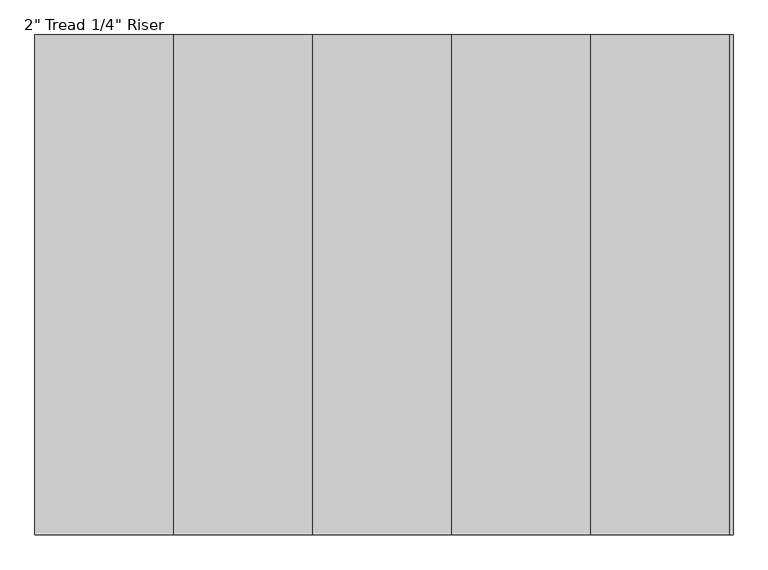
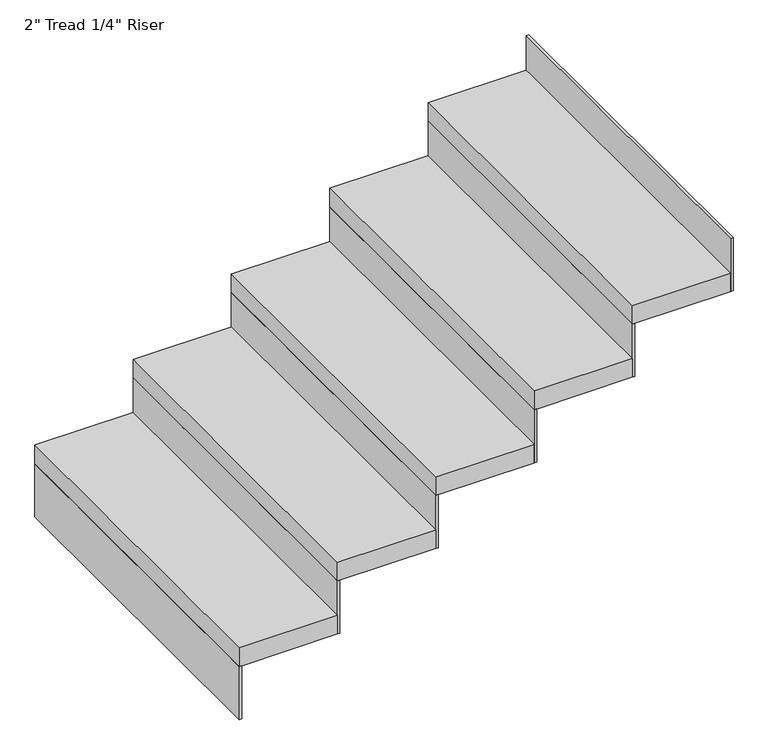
"""IFC4 building model written with IfcOpenShell, lengths in millimetres: stair flight geometry."""

from ifc_helpers import new_model, si_unit, frame, origin, place, context, project, spatial, polyline, outline, extrude, source, transform, mapped, element, save


def stair_flight_89fbb5f7(model_context):
    return source(origin(), model_context, "Body", "SweptSolid", [
        extrude(outline(polyline([(138179.3023809, 32313.9530185), (138172.9523809, 32313.9530185), (138172.9523809, 33228.3530185), (138179.3023809, 33228.3530185), (138179.3023809, 32313.9530185)])), frame((0.0, 0.0, 2126.3428571), z_axis=(0.0, 0.0, 1.0), x_axis=(1.0, 0.0, 0.0)), (0.0, 0.0, 1.0), 145.1428571),
        extrude(outline(polyline([(138426.9523809, 33228.3530185), (138426.9523809, 32313.9530185), (138172.9523809, 32313.9530185), (138172.9523809, 33228.3530185), (138426.9523809, 33228.3530185)])), frame((0.0, 0.0, 2271.4857143), z_axis=(0.0, 0.0, 1.0), x_axis=(1.0, 0.0, 0.0)), (0.0, 0.0, 1.0), 50.8),
        extrude(outline(polyline([(138433.3023809, 32313.9530185), (138426.9523809, 32313.9530185), (138426.9523809, 33228.3530185), (138433.3023809, 33228.3530185), (138433.3023809, 32313.9530185)])), frame((0.0, 0.0, 2271.4857143), z_axis=(0.0, 0.0, 1.0), x_axis=(1.0, 0.0, 0.0)), (0.0, 0.0, 1.0), 145.1428571),
        extrude(outline(polyline([(138680.9523809, 33228.3530185), (138680.9523809, 32313.9530185), (138426.9523809, 32313.9530185), (138426.9523809, 33228.3530185), (138680.9523809, 33228.3530185)])), frame((0.0, 0.0, 2416.6285714), z_axis=(0.0, 0.0, 1.0), x_axis=(1.0, 0.0, 0.0)), (0.0, 0.0, 1.0), 50.8),
        extrude(outline(polyline([(138687.3023809, 32313.9530185), (138680.9523809, 32313.9530185), (138680.9523809, 33228.3530185), (138687.3023809, 33228.3530185), (138687.3023809, 32313.9530185)])), frame((0.0, 0.0, 2416.6285714), z_axis=(0.0, 0.0, 1.0), x_axis=(1.0, 0.0, 0.0)), (0.0, 0.0, 1.0), 145.1428571),
        extrude(outline(polyline([(138934.9523809, 33228.3530185), (138934.9523809, 32313.9530185), (138680.9523809, 32313.9530185), (138680.9523809, 33228.3530185), (138934.9523809, 33228.3530185)])), frame((0.0, 0.0, 2561.7714286), z_axis=(0.0, 0.0, 1.0), x_axis=(1.0, 0.0, 0.0)), (0.0, 0.0, 1.0), 50.8),
        extrude(outline(polyline([(138941.3023809, 32313.9530185), (138934.9523809, 32313.9530185), (138934.9523809, 33228.3530185), (138941.3023809, 33228.3530185), (138941.3023809, 32313.9530185)])), frame((0.0, 0.0, 2561.7714286), z_axis=(0.0, 0.0, 1.0), x_axis=(1.0, 0.0, 0.0)), (0.0, 0.0, 1.0), 145.1428571),
        extrude(outline(polyline([(139188.9523809, 33228.3530185), (139188.9523809, 32313.9530185), (138934.9523809, 32313.9530185), (138934.9523809, 33228.3530185), (139188.9523809, 33228.3530185)])), frame((0.0, 0.0, 2706.9142857), z_axis=(0.0, 0.0, 1.0), x_axis=(1.0, 0.0, 0.0)), (0.0, 0.0, 1.0), 50.8),
        extrude(outline(polyline([(139195.3023809, 32313.9530185), (139188.9523809, 32313.9530185), (139188.9523809, 33228.3530185), (139195.3023809, 33228.3530185), (139195.3023809, 32313.9530185)])), frame((0.0, 0.0, 2706.9142857), z_axis=(0.0, 0.0, 1.0), x_axis=(1.0, 0.0, 0.0)), (0.0, 0.0, 1.0), 145.1428571),
        extrude(outline(polyline([(139449.3023809, 32313.9530185), (139442.9523809, 32313.9530185), (139442.9523809, 33228.3530185), (139449.3023809, 33228.3530185), (139449.3023809, 32313.9530185)])), frame((0.0, 0.0, 2852.0571429), z_axis=(0.0, 0.0, 1.0), x_axis=(1.0, 0.0, 0.0)), (0.0, 0.0, 1.0), 145.1428571),
        extrude(outline(polyline([(139442.9523809, 33228.3530185), (139442.9523809, 32313.9530185), (139188.9523809, 32313.9530185), (139188.9523809, 33228.3530185), (139442.9523809, 33228.3530185)])), frame((0.0, 0.0, 2852.0571429), z_axis=(0.0, 0.0, 1.0), x_axis=(1.0, 0.0, 0.0)), (0.0, 0.0, 1.0), 50.8),
    ])


if __name__ == "__main__":
    model = new_model("IFC4")
    model_context = context("Model", 3, world=origin())
    ifc_project = project(units=[si_unit("LENGTHUNIT", "METRE", prefix="MILLI")], contexts=[model_context])
    site = spatial("IfcSite", under=ifc_project)
    building = spatial("IfcBuilding", under=site)
    placement = place(None, origin())
    stair_flight_shape = stair_flight_89fbb5f7(model_context)
    element("IfcStairFlight", 1, ObjectType="2\" Tread 1/4\" Riser", at=placement, inside=building, context=model_context, shape_type="MappedRepresentation", body=[
        mapped(stair_flight_shape, transform((0.0, 0.0, 0.0), x_axis=(1.0, 0.0, 0.0), y_axis=(0.0, 1.0, 0.0), z_axis=(0.0, 0.0, 1.0))),
    ])
    save(model, "model.ifc")
